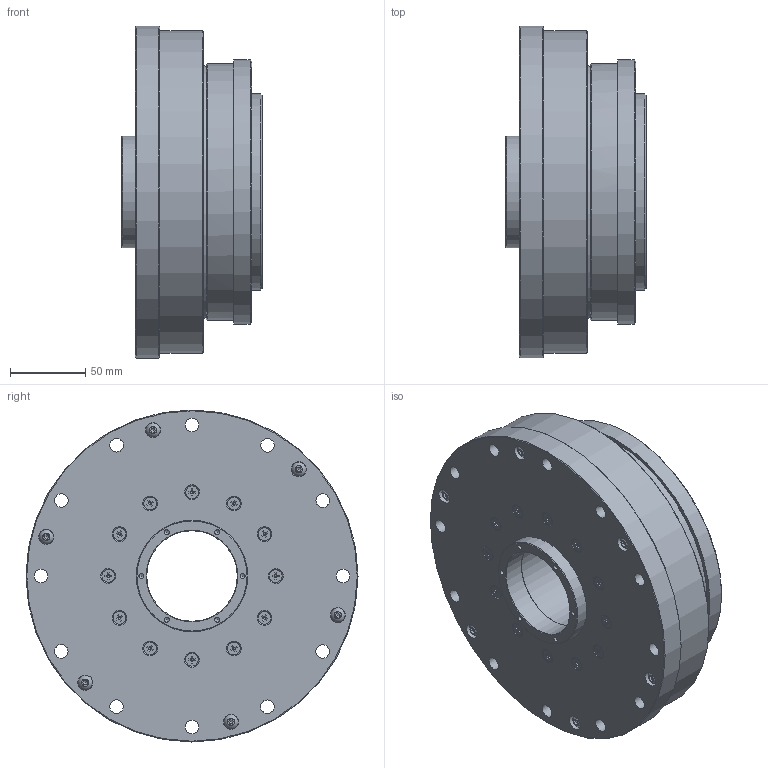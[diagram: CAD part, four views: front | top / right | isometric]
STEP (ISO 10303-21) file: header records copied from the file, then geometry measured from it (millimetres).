
FILE_DESCRIPTION (( 'STEP AP203' ), '1' );
FILE_NAME ('LHSG-50-XXX-C-III.STEP', '2024-06-21T05:49:43', ( '' ), ( '' ), 'SwSTEP 2.0', 'SolidWorks 2023', '' );
FILE_SCHEMA (( 'CONFIG_CONTROL_DESIGN' ));
Length unit declared in the file: millimetre
Products named in the file (1): LHSG-50-XXX-C-III
Bounding box: 93 x 220 x 220 mm (x, y, z)
Volume: 1679441.1 mm3; surface area: 480790.1 mm2
Topology: 24 solids, 122 shells, 1736 faces, 4570 edges, 2942 vertices
Faces by surface type: plane 800, cylinder 321, torus 261, cone 231, sphere 123
Full cylindrical faces by diameter (mm): 3.3 x18, 4 x12, 4.2 x28, 4.5 x12, 5 x28, 5.5 x28, 6.8 x16, 8.4 x12, 8.5 x16, 9 x28, 9.5 x20, 10 x14, 10.5 x6, 60 x2, 60.5 x1, 69 x2, 70.6 x1, 72 x2, 74 x1, 75 x5, 76.6 x1, 77 x1, 78 x2, 79.5 x1, 80 x1, 81.667 x2, 82 x1, 83 x1, 85 x3, 88.3 x1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
Entity records: 51177 total; most frequent: CARTESIAN_POINT 14775, DIRECTION 7456, ORIENTED_EDGE 6638, EDGE_CURVE 3319, AXIS2_PLACEMENT_3D 3200, EDGE_LOOP 2614, VERTEX_POINT 2391, FACE_OUTER_BOUND 2043
